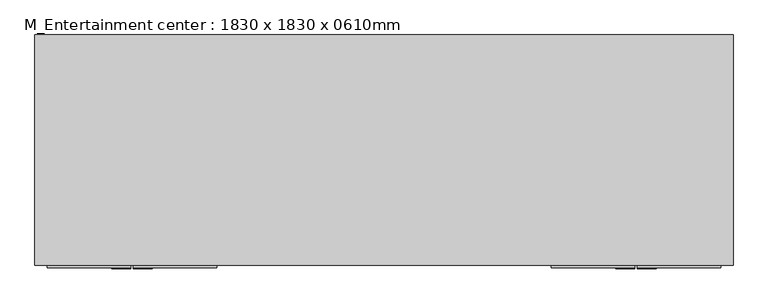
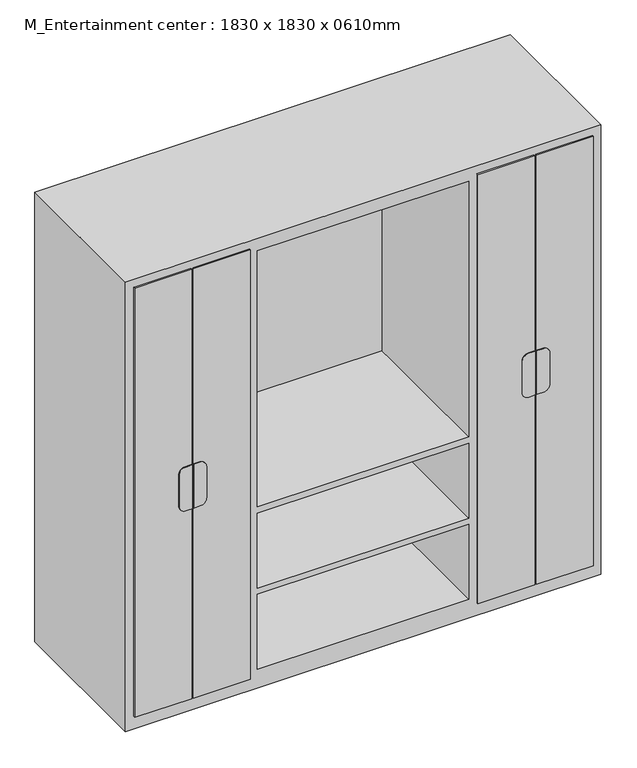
"""IFC4 building model written with IfcOpenShell, lengths in millimetres: furniture geometry, M_Entertainment center : 1830 x 1830 x 0610mm."""

import ifcopenshell
import ifcopenshell.guid

model = None  # the IFC model being written
_history = None  # IfcOwnerHistory: only IFC2X3 demands one
_inside = {}  # id of a spatial element -> (the spatial element, [elements in it])
_under = {}  # id of a project, library or spatial element -> (it, [spatial elements below it])
_declared = {}  # id of a project -> (the project, [libraries it declares])
_typed = {}  # id of a type object -> (the type object, [elements of that type])
_made_of = {}  # id of a material, layer set ... -> (it, [elements and type objects made of it])


def new_model(schema):
    """Start an empty IFC model of exactly this schema.

    Asked for "IFC4X3", IfcOpenShell would pick the latest addendum, in which some entities
    have other attributes; the version numbers below select the first issue.
    IFC2X3 requires an IfcOwnerHistory on every rooted entity: one is made here for all.
    """
    global model, _history
    if schema == "IFC4X3":
        model = ifcopenshell.file(schema_version=(4, 3, 0, 0))
    else:
        model = ifcopenshell.file(schema=schema)
    _inside.clear()
    _under.clear()
    _declared.clear()
    _typed.clear()
    _made_of.clear()
    _history = None
    if model.schema == "IFC2X3":
        org = make("IfcOrganization", Name="unknown")
        user = make(
            "IfcPersonAndOrganization",
            ThePerson=make("IfcPerson", FamilyName="unknown"),
            TheOrganization=org,
        )
        app = make(
            "IfcApplication",
            ApplicationDeveloper=org,
            Version="unknown",
            ApplicationFullName="unknown",
            ApplicationIdentifier="unknown",
        )
        _history = make(
            "IfcOwnerHistory",
            OwningUser=user,
            OwningApplication=app,
            ChangeAction="ADDED",
            CreationDate=0,
        )
    return model


def make(cls, **values):
    """One entity of the class cls with the attributes given. An attribute that is None is left unset."""
    return model.create_entity(
        cls, **{name: value for name, value in values.items() if value is not None}
    )


def rooted(cls, **values):
    """An entity with a GlobalId (a new one), such as an element, a storey or a relation."""
    return make(cls, GlobalId=ifcopenshell.guid.new(), OwnerHistory=_history, **values)


def si_unit(unit_type, name, prefix=None):
    """IfcSIUnit, for example si_unit("LENGTHUNIT", "METRE", prefix="MILLI")."""
    return make("IfcSIUnit", UnitType=unit_type, Prefix=prefix, Name=name)


def assignment(units):
    """IfcUnitAssignment: the units of a project."""
    return None if units is None else make("IfcUnitAssignment", Units=units)


def point(xyz):
    """IfcCartesianPoint."""
    return None if xyz is None else make("IfcCartesianPoint", Coordinates=xyz)


def direction(xyz):
    """IfcDirection."""
    return None if xyz is None else make("IfcDirection", DirectionRatios=xyz)


def frame(location, z_axis=None, x_axis=None):
    """IfcAxis2Placement3D, a coordinate frame: its origin and axes. An axis left out is left unset."""
    return make(
        "IfcAxis2Placement3D",
        Location=point(location),
        Axis=direction(z_axis),
        RefDirection=direction(x_axis),
    )


def frame_2d(location, x_axis=None):
    """IfcAxis2Placement2D, a coordinate frame in the plane: its origin and x axis."""
    return make(
        "IfcAxis2Placement2D", Location=point(location), RefDirection=direction(x_axis)
    )


def origin():
    """The frame at (0, 0, 0) with its axes left unset."""
    return frame((0.0, 0.0, 0.0))


def place(relative_to, where):
    """IfcLocalPlacement: puts the frame where relative to a parent placement (None: the world)."""
    return make(
        "IfcLocalPlacement", PlacementRelTo=relative_to, RelativePlacement=where
    )


def context(
    kind, dimensions, precision=None, world=None, true_north=None, identifier=None
):
    """IfcGeometricRepresentationContext, for example the 3D "Model" context."""
    return make(
        "IfcGeometricRepresentationContext",
        ContextIdentifier=identifier,
        ContextType=kind,
        CoordinateSpaceDimension=dimensions,
        Precision=precision,
        WorldCoordinateSystem=world,
        TrueNorth=true_north,
    )


def project(units=None, contexts=None):
    """IfcProject with its units and contexts."""
    return rooted(
        "IfcProject",
        Name="project",
        RepresentationContexts=contexts,
        UnitsInContext=assignment(units),
    )


def spatial(cls, under=None, at=None, **own):
    """A site, building, storey or space (cls), placed at a placement, below another one or the project."""
    s = rooted(cls, ObjectPlacement=at, **own)
    if under is not None:
        _under.setdefault(under.id(), (under, []))[1].append(s)
    return s


def polyline(points):
    """IfcPolyline through the points."""
    return make("IfcPolyline", Points=[point(p) for p in points])


def circle_curve(where, radius):
    """IfcCircle in the frame where."""
    return make("IfcCircle", Position=where, Radius=radius)


def trimmed(basis, trim1, trim2, sense, master):
    """IfcTrimmedCurve: the piece of a basis curve between two trims."""
    return make(
        "IfcTrimmedCurve",
        BasisCurve=basis,
        Trim1=trim1,
        Trim2=trim2,
        SenseAgreement=sense,
        MasterRepresentation=master,
    )


def segment(curve, same_sense, transition):
    """IfcCompositeCurveSegment."""
    return make(
        "IfcCompositeCurveSegment",
        Transition=transition,
        SameSense=same_sense,
        ParentCurve=curve,
    )


def composite_curve(segments, self_intersect=None):
    """IfcCompositeCurve: segments joined end to end."""
    return make("IfcCompositeCurve", Segments=segments, SelfIntersect=self_intersect)


def outline(outer, holes=None, kind="AREA"):
    """IfcArbitraryClosedProfileDef: a profile drawn as a closed curve; with holes, ...WithVoids."""
    if holes is None:
        return make("IfcArbitraryClosedProfileDef", ProfileType=kind, OuterCurve=outer)
    return make(
        "IfcArbitraryProfileDefWithVoids",
        ProfileType=kind,
        OuterCurve=outer,
        InnerCurves=holes,
    )


def extrude(swept, where, along, depth):
    """IfcExtrudedAreaSolid: the profile swept, set in the frame where, extruded along a direction by depth."""
    return make(
        "IfcExtrudedAreaSolid",
        SweptArea=swept,
        Position=where,
        ExtrudedDirection=direction(along),
        Depth=depth,
    )


def faces_of(points, faces, orient=None, outer=None):
    """IfcFace entities. A face is a list of loops; a loop is a list of indices into points, from 0.

    orient and outer hold one flag for each loop. By default every Orientation is true, the
    first loop of a face is its IfcFaceOuterBound and the others are IfcFaceBound.
    """
    made = []
    for i, loops in enumerate(faces):
        bounds = []
        for j, loop in enumerate(loops):
            is_outer = j == 0 if outer is None else outer[i][j]
            bounds.append(
                make(
                    "IfcFaceOuterBound" if is_outer else "IfcFaceBound",
                    Bound=make("IfcPolyLoop", Polygon=[points[k] for k in loop]),
                    Orientation=True if orient is None else orient[i][j],
                )
            )
        made.append(make("IfcFace", Bounds=bounds))
    return made


def faceted_brep(points, faces, orient=None, outer=None, voids=None):
    """IfcFacetedBrep: a solid bounded by flat faces; with voids (closed shells), ...WithVoids."""
    shared = [point(p) for p in points]
    hull = make("IfcClosedShell", CfsFaces=faces_of(shared, faces, orient, outer))
    if voids is None:
        return make("IfcFacetedBrep", Outer=hull)
    return make(
        "IfcFacetedBrepWithVoids",
        Outer=hull,
        Voids=[
            make(cls, CfsFaces=faces_of(shared, fs, o, b)) for cls, fs, o, b in voids
        ],
    )


def shape(context_of_items, identifier, shape_type, items):
    """IfcShapeRepresentation: the items that make up one representation, for example the "Body"."""
    return make(
        "IfcShapeRepresentation",
        ContextOfItems=context_of_items,
        RepresentationIdentifier=identifier,
        RepresentationType=shape_type,
        Items=items,
    )


def source(mapping_origin, context_of_items, identifier, shape_type, items):
    """IfcRepresentationMap: a shape defined once, which mapped items show again and again."""
    return make(
        "IfcRepresentationMap",
        MappingOrigin=mapping_origin,
        MappedRepresentation=shape(context_of_items, identifier, shape_type, items),
    )


def transform(
    local_origin,
    x_axis=None,
    y_axis=None,
    z_axis=None,
    scale=None,
    scale2=None,
    scale3=None,
    uniform=True,
):
    """IfcCartesianTransformationOperator3D, or its non-uniform kind. x_axis, y_axis, z_axis: its Axis1, 2, 3."""
    if uniform:
        return make(
            "IfcCartesianTransformationOperator3D",
            Axis1=direction(x_axis),
            Axis2=direction(y_axis),
            LocalOrigin=point(local_origin),
            Scale=scale,
            Axis3=direction(z_axis),
        )
    return make(
        "IfcCartesianTransformationOperator3DnonUniform",
        Axis1=direction(x_axis),
        Axis2=direction(y_axis),
        LocalOrigin=point(local_origin),
        Scale=scale,
        Axis3=direction(z_axis),
        Scale2=scale2,
        Scale3=scale3,
    )


def mapped(mapping_source, mapping_target):
    """IfcMappedItem: shows the shape of a source again, moved by a transform."""
    return make(
        "IfcMappedItem", MappingSource=mapping_source, MappingTarget=mapping_target
    )


def made_of(thing, what):
    """Note that an element or type object is made of a material, layer set ...; save() writes the relation."""
    if what is not None:
        _made_of.setdefault(what.id(), (what, []))[1].append(thing)
    return thing


def element(
    cls,
    number,
    at=None,
    inside=None,
    cuts=None,
    type_object=None,
    material=None,
    context=None,
    identifier="Body",
    shape_type=None,
    held_by="IfcProductDefinitionShape",
    body=None,
    shapes=None,
    **own,
):
    """One element of the class cls, such as IfcWall. Its Tag is "e" and its number.

    at: its placement. inside: the storey or other place that contains it. cuts: it is an
    opening in that element (IfcRelVoidsElement). A single representation is given by context,
    identifier, shape_type and body (its items); several are given by shapes. held_by: the class
    of the entity that holds the representations. save() writes the other relations.
    """
    e = rooted(cls, Tag="e%d" % number, ObjectPlacement=at, **own)
    if body is not None:
        shapes = [shape(context, identifier, shape_type, body)]
    if shapes is not None:
        e.Representation = make(held_by, Representations=shapes)
    if inside is not None:
        _inside.setdefault(inside.id(), (inside, []))[1].append(e)
    if cuts is not None:
        rooted(
            "IfcRelVoidsElement", RelatingBuildingElement=cuts, RelatedOpeningElement=e
        )
    if type_object is not None:
        _typed.setdefault(type_object.id(), (type_object, []))[1].append(e)
    return made_of(e, material)


def aggregate(whole, parts):
    """IfcRelAggregates: a whole, such as a stair, and the parts it consists of."""
    return rooted("IfcRelAggregates", RelatingObject=whole, RelatedObjects=parts)


def save(model, path):
    """Write the relations noted so far, then the file.

    IfcRelAggregates (storeys below a building ...), IfcRelContainedInSpatialStructure (elements
    in a storey), IfcRelDefinesByType, IfcRelAssociatesMaterial and IfcRelDeclares: one each for
    every whole, place, type object, material and project.
    """
    for whole, parts in _under.values():
        aggregate(whole, parts)
    for where, things in _inside.values():
        rooted(
            "IfcRelContainedInSpatialStructure",
            RelatedElements=things,
            RelatingStructure=where,
        )
    for kind, things in _typed.values():
        rooted("IfcRelDefinesByType", RelatedObjects=things, RelatingType=kind)
    for what, things in _made_of.values():
        rooted("IfcRelAssociatesMaterial", RelatedObjects=things, RelatingMaterial=what)
    for by, libraries in _declared.values():
        rooted("IfcRelDeclares", RelatingContext=by, RelatedDefinitions=libraries)
    model.write(path)


def m_entertainment_center_1830_x_1830_x_0610mm_f77a9b93(model_context):
    return source(origin(), model_context, "Body", "SolidModel", [
        faceted_brep([(915.0, -705.05, 0.0), (915.0, -705.05, 1830.0), (-915.0, -705.05, 1830.0), (-915.0, -705.05, 0.0), (-457.3, -705.05, 1779.2), (-457.3, -705.05, 1385.2), (-864.2, -705.05, 1385.2), (-864.2, -705.05, 1779.2), (-457.3, -705.05, 76.2), (-864.2, -705.05, 76.2), (-864.2, -705.05, 444.8), (-457.3, -705.05, 444.8), (864.2, -705.05, 1385.2), (457.3, -705.05, 1385.2), (457.3, -705.05, 1779.2), (864.2, -705.05, 1779.2), (-406.5, -705.05, 737.2), (-406.5, -705.05, 1779.2), (406.5, -705.05, 1779.2), (406.5, -705.05, 737.2), (406.5, -705.05, 76.2), (-406.5, -705.05, 76.2), (-406.5, -705.05, 381.3), (406.5, -705.05, 381.3), (864.2, -705.05, 76.2), (457.3, -705.05, 76.2), (457.3, -705.05, 444.8), (864.2, -705.05, 444.8), (-864.2, -705.05, 470.2), (-864.2, -705.05, 902.3), (-457.3, -705.05, 902.3), (-457.3, -705.05, 470.2), (-457.3, -705.05, 1359.8), (-457.3, -705.05, 927.7), (-864.2, -705.05, 927.7), (-864.2, -705.05, 1359.8), (457.3, -705.05, 1359.8), (864.2, -705.05, 1359.8), (864.2, -705.05, 927.7), (457.3, -705.05, 927.7), (457.3, -705.05, 902.3), (864.2, -705.05, 902.3), (864.2, -705.05, 470.2), (457.3, -705.05, 470.2), (406.5, -705.05, 406.7), (-406.5, -705.05, 406.7), (-406.5, -705.05, 711.8), (406.5, -705.05, 711.8), (915.0, -101.4, 0.0), (-915.0, -101.4, 0.0), (-915.0, -101.4, 1830.0), (915.0, -101.4, 1830.0), (-457.3, -126.8, 1779.2), (-457.3, -126.8, 1385.2), (-864.2, -126.8, 1385.2), (-864.2, -126.8, 1779.2), (-457.3, -126.8, 76.2), (-864.2, -126.8, 76.2), (-864.2, -126.8, 444.8), (-457.3, -126.8, 444.8), (864.2, -126.8, 1385.2), (457.3, -126.8, 1385.2), (457.3, -126.8, 1779.2), (864.2, -126.8, 1779.2), (-406.5, -126.8, 737.2), (-406.5, -126.8, 1779.2), (406.5, -126.8, 1779.2), (406.5, -126.8, 737.2), (406.5, -126.8, 76.2), (-406.5, -126.8, 76.2), (-406.5, -126.8, 381.3), (406.5, -126.8, 381.3), (864.2, -126.8, 76.2), (457.3, -126.8, 76.2), (457.3, -126.8, 444.8), (864.2, -126.8, 444.8), (-864.2, -126.8, 470.2), (-864.2, -126.8, 902.3), (-457.3, -126.8, 902.3), (-457.3, -126.8, 470.2), (-457.3, -126.8, 1359.8), (-457.3, -126.8, 927.7), (-864.2, -126.8, 927.7), (-864.2, -126.8, 1359.8), (457.3, -126.8, 1359.8), (864.2, -126.8, 1359.8), (864.2, -126.8, 927.7), (457.3, -126.8, 927.7), (457.3, -126.8, 902.3), (864.2, -126.8, 902.3), (864.2, -126.8, 470.2), (457.3, -126.8, 470.2), (406.5, -126.8, 406.7), (-406.5, -126.8, 406.7), (-406.5, -126.8, 711.8), (406.5, -126.8, 711.8)], [[[0, 1, 2, 3], [4, 5, 6, 7], [8, 9, 10, 11], [12, 13, 14, 15], [16, 17, 18, 19], [20, 21, 22, 23], [24, 25, 26, 27], [28, 29, 30, 31], [32, 33, 34, 35], [36, 37, 38, 39], [40, 41, 42, 43], [44, 45, 46, 47]], [[48, 49, 50, 51]], [[1, 0, 48, 51]], [[2, 1, 51, 50]], [[3, 2, 50, 49]], [[0, 3, 49, 48]], [[5, 4, 52, 53]], [[6, 5, 53, 54]], [[7, 6, 54, 55]], [[4, 7, 55, 52]], [[9, 8, 56, 57]], [[10, 9, 57, 58]], [[11, 10, 58, 59]], [[8, 11, 59, 56]], [[13, 12, 60, 61]], [[14, 13, 61, 62]], [[15, 14, 62, 63]], [[12, 15, 63, 60]], [[17, 16, 64, 65]], [[18, 17, 65, 66]], [[19, 18, 66, 67]], [[16, 19, 67, 64]], [[21, 20, 68, 69]], [[22, 21, 69, 70]], [[23, 22, 70, 71]], [[20, 23, 71, 68]], [[25, 24, 72, 73]], [[26, 25, 73, 74]], [[27, 26, 74, 75]], [[24, 27, 75, 72]], [[29, 28, 76, 77]], [[30, 29, 77, 78]], [[31, 30, 78, 79]], [[28, 31, 79, 76]], [[33, 32, 80, 81]], [[34, 33, 81, 82]], [[35, 34, 82, 83]], [[32, 35, 83, 80]], [[37, 36, 84, 85]], [[38, 37, 85, 86]], [[39, 38, 86, 87]], [[36, 39, 87, 84]], [[41, 40, 88, 89]], [[42, 41, 89, 90]], [[43, 42, 90, 91]], [[40, 43, 91, 88]], [[45, 44, 92, 93]], [[46, 45, 93, 94]], [[47, 46, 94, 95]], [[44, 47, 95, 92]], [[53, 52, 55, 54]], [[57, 56, 59, 58]], [[61, 60, 63, 62]], [[65, 64, 67, 66]], [[69, 68, 71, 70]], [[73, 72, 75, 74]], [[77, 76, 79, 78]], [[81, 80, 83, 82]], [[85, 84, 87, 86]], [[89, 88, 91, 90]], [[93, 92, 95, 94]]]),
        extrude(outline(composite_curve([segment(polyline([(1003.9, -633.3486452), (1003.9, -657.575), (826.1, -657.575), (826.1, -633.3486452)]), True, "CONTINUOUS"), segment(trimmed(circle_curve(frame_2d((851.5, -633.3486452)), 25.4), [point((826.1, -633.3486452))], [point((851.5, -607.9486452))], False, "CARTESIAN"), True, "CONTINUOUS"), segment(polyline([(851.5, -607.9486452), (978.5, -607.9486452)]), True, "CONTINUOUS"), segment(trimmed(circle_curve(frame_2d((978.5, -633.3486452)), 25.4), [point((978.5, -607.9486452))], [point((1003.9, -633.3486452))], False, "CARTESIAN"), True, "CONTINUOUS")], self_intersect=False)), frame((0.0, -714.575, 0.0), z_axis=(0.0, 1.0, 0.0), x_axis=(0.0, 0.0, 1.0)), (0.0, 0.0, 1.0), 3.175),
        extrude(outline(composite_curve([segment(trimmed(circle_curve(frame_2d((978.5, -688.53125)), 25.4), [point((1003.9, -688.53125))], [point((978.5, -713.93125))], False, "CARTESIAN"), True, "CONTINUOUS"), segment(polyline([(978.5, -713.93125), (851.5, -713.93125)]), True, "CONTINUOUS"), segment(trimmed(circle_curve(frame_2d((851.5, -688.53125)), 25.4), [point((851.5, -713.93125))], [point((826.1, -688.53125))], False, "CARTESIAN"), True, "CONTINUOUS"), segment(polyline([(826.1, -688.53125), (826.1, -663.925), (1003.9, -663.925), (1003.9, -688.53125)]), True, "CONTINUOUS")], self_intersect=False)), frame((0.0, -714.575, 0.0), z_axis=(0.0, 1.0, 0.0), x_axis=(0.0, 0.0, 1.0)), (0.0, 0.0, 1.0), 3.175),
        extrude(outline(composite_curve([segment(trimmed(circle_curve(frame_2d((978.5, 633.3486452)), 25.4), [point((1003.9, 633.3486452))], [point((978.5, 607.9486452))], False, "CARTESIAN"), True, "CONTINUOUS"), segment(polyline([(978.5, 607.9486452), (851.5, 607.9486452)]), True, "CONTINUOUS"), segment(trimmed(circle_curve(frame_2d((851.5, 633.3486452)), 25.4), [point((851.5, 607.9486452))], [point((826.1, 633.3486452))], False, "CARTESIAN"), True, "CONTINUOUS"), segment(polyline([(826.1, 633.3486452), (826.1, 657.575), (1003.9, 657.575), (1003.9, 633.3486452)]), True, "CONTINUOUS")], self_intersect=False)), frame((0.0, -714.575, 0.0), z_axis=(0.0, 1.0, 0.0), x_axis=(0.0, 0.0, 1.0)), (0.0, 0.0, 1.0), 3.175),
        extrude(outline(composite_curve([segment(polyline([(1003.9, 688.53125), (1003.9, 663.925), (826.1, 663.925), (826.1, 688.53125)]), True, "CONTINUOUS"), segment(trimmed(circle_curve(frame_2d((851.5, 688.53125)), 25.4), [point((826.1, 688.53125))], [point((851.5, 713.93125))], False, "CARTESIAN"), True, "CONTINUOUS"), segment(polyline([(851.5, 713.93125), (978.5, 713.93125)]), True, "CONTINUOUS"), segment(trimmed(circle_curve(frame_2d((978.5, 688.53125)), 25.4), [point((978.5, 713.93125))], [point((1003.9, 688.53125))], False, "CARTESIAN"), True, "CONTINUOUS")], self_intersect=False)), frame((0.0, -714.575, 0.0), z_axis=(0.0, 1.0, 0.0), x_axis=(0.0, 0.0, 1.0)), (0.0, 0.0, 1.0), 3.175),
        extrude(outline(polyline([(-883.25, -705.05), (-663.925, -705.05), (-663.925, -711.4), (-883.25, -711.4), (-883.25, -705.05)])), frame((0.0, 0.0, 50.8), z_axis=(0.0, 0.0, 1.0), x_axis=(1.0, 0.0, 0.0)), (0.0, 0.0, 1.0), 1747.45),
        extrude(outline(polyline([(-657.575, -705.05), (-438.25, -705.05), (-438.25, -711.4), (-657.575, -711.4), (-657.575, -705.05)])), frame((0.0, 0.0, 50.8), z_axis=(0.0, 0.0, 1.0), x_axis=(1.0, 0.0, 0.0)), (0.0, 0.0, 1.0), 1747.45),
        extrude(outline(polyline([(663.925, -705.05), (883.25, -705.05), (883.25, -711.4), (663.925, -711.4), (663.925, -705.05)])), frame((0.0, 0.0, 50.8), z_axis=(0.0, 0.0, 1.0), x_axis=(1.0, 0.0, 0.0)), (0.0, 0.0, 1.0), 1747.45),
        extrude(outline(polyline([(438.25, -705.05), (657.575, -705.05), (657.575, -711.4), (438.25, -711.4), (438.25, -705.05)])), frame((0.0, 0.0, 50.8), z_axis=(0.0, 0.0, 1.0), x_axis=(1.0, 0.0, 0.0)), (0.0, 0.0, 1.0), 1747.45),
    ])


if __name__ == "__main__":
    model = new_model("IFC4")
    model_context = context("Model", 3, world=origin())
    ifc_project = project(units=[si_unit("LENGTHUNIT", "METRE", prefix="MILLI")], contexts=[model_context])
    site = spatial("IfcSite", under=ifc_project)
    building = spatial("IfcBuilding", under=site)
    placement = place(None, origin())
    m_entertainment_center_1830_x_1830_x_0610mm_shape = m_entertainment_center_1830_x_1830_x_0610mm_f77a9b93(model_context)
    element("IfcFurniture", 1, ObjectType="M_Entertainment center : 1830 x 1830 x 0610mm", at=placement, inside=building, context=model_context, shape_type="MappedRepresentation", body=[
        mapped(m_entertainment_center_1830_x_1830_x_0610mm_shape, transform((0.0, 0.0, 0.0), x_axis=(1.0, 0.0, 0.0), y_axis=(0.0, 1.0, 0.0), z_axis=(0.0, 0.0, 1.0))),
    ])
    save(model, "model.ifc")
